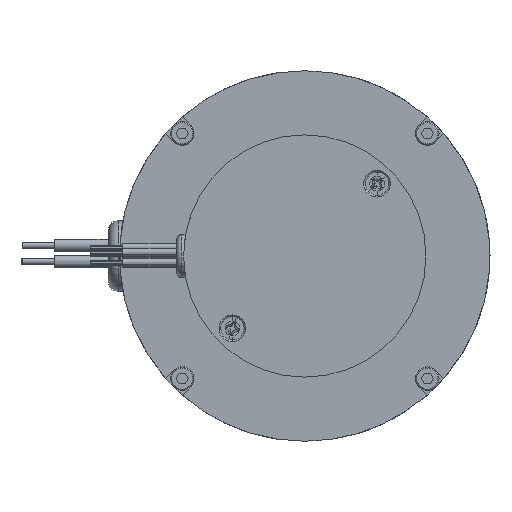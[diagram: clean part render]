
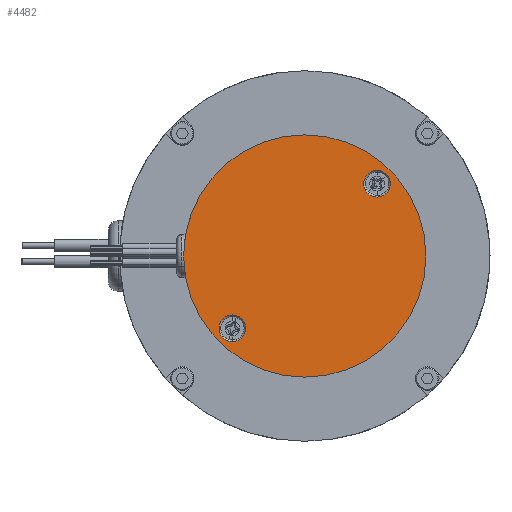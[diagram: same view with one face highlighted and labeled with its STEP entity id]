
A CAD part, left-side view. The second image highlights one B-rep face of the part: STEP entity #4482.
In plain terms, the highlighted planar face has unit normal (-1, 0, 0).
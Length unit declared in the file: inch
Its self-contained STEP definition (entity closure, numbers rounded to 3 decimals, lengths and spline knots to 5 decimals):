
#16 = DIRECTION ( 'NONE',  ( -1., 0., 0. ) ) ;
#117 = EDGE_LOOP ( 'NONE', ( #11324, #13840 ) ) ;
#684 = FACE_BOUND ( 'NONE', #5483, .T. ) ;
#752 = AXIS2_PLACEMENT_3D ( 'NONE', #10796, #6453, #7347 ) ;
#1110 = DIRECTION ( 'NONE',  ( 0., 0., 1. ) ) ;
#1230 = DIRECTION ( 'NONE',  ( 1., 0., 0. ) ) ;
#1597 = AXIS2_PLACEMENT_3D ( 'NONE', #13804, #16, #9720 ) ;
#1631 = AXIS2_PLACEMENT_3D ( 'NONE', #2332, #1230, #4690 ) ;
#2140 = CARTESIAN_POINT ( 'NONE',  ( -3.72874, 3.38834, 5.77322 ) ) ;
#2332 = CARTESIAN_POINT ( 'NONE',  ( -3.72874, 4.06009, 5.10147 ) ) ;
#2530 = EDGE_CURVE ( 'NONE', #9944, #13848, #14229, .T. ) ;
#2608 = DIRECTION ( 'NONE',  ( 0., 0., 1. ) ) ;
#2821 = VERTEX_POINT ( 'NONE', #14860 ) ;
#2999 = EDGE_CURVE ( 'NONE', #2821, #13228, #3252, .T. ) ;
#3252 = CIRCLE ( 'NONE', #14055, 0.12402 ) ;
#3500 = CARTESIAN_POINT ( 'NONE',  ( -3.72874, 3.38834, 5.89724 ) ) ;
#3845 = CIRCLE ( 'NONE', #14879, 0.12402 ) ;
#4482 = ADVANCED_FACE ( 'NONE', ( #14899, #684, #14195 ), #6857, .F. ) ;
#4690 = DIRECTION ( 'NONE',  ( 0., 0., -1. ) ) ;
#5278 = VERTEX_POINT ( 'NONE', #11889 ) ;
#5483 = EDGE_LOOP ( 'NONE', ( #7687, #11428 ) ) ;
#5600 = AXIS2_PLACEMENT_3D ( 'NONE', #5723, #12370, #11317 ) ;
#5720 = CARTESIAN_POINT ( 'NONE',  ( -3.72874, 4.73184, 4.42972 ) ) ;
#5723 = CARTESIAN_POINT ( 'NONE',  ( -3.72874, 4.06009, 5.10147 ) ) ;
#6453 = DIRECTION ( 'NONE',  ( 1., 0., 0. ) ) ;
#6582 = DIRECTION ( 'NONE',  ( 0., 0., 1. ) ) ;
#6857 = PLANE ( 'NONE',  #5600 ) ;
#7030 = VERTEX_POINT ( 'NONE', #8577 ) ;
#7320 = ORIENTED_EDGE ( 'NONE', *, *, #14835, .F. ) ;
#7347 = DIRECTION ( 'NONE',  ( 0., 0., -1. ) ) ;
#7687 = ORIENTED_EDGE ( 'NONE', *, *, #8504, .F. ) ;
#8245 = CARTESIAN_POINT ( 'NONE',  ( -3.72874, 3.38834, 5.77322 ) ) ;
#8348 = CARTESIAN_POINT ( 'NONE',  ( -3.72874, 4.73184, 4.3057 ) ) ;
#8402 = DIRECTION ( 'NONE',  ( -1., 0., 0. ) ) ;
#8504 = EDGE_CURVE ( 'NONE', #13228, #2821, #3845, .T. ) ;
#8577 = CARTESIAN_POINT ( 'NONE',  ( -3.72874, 4.06009, 3.97647 ) ) ;
#9720 = DIRECTION ( 'NONE',  ( 0., 0., 1. ) ) ;
#9944 = VERTEX_POINT ( 'NONE', #12664 ) ;
#10039 = DIRECTION ( 'NONE',  ( -1., 0., 0. ) ) ;
#10180 = CIRCLE ( 'NONE', #752, 1.125 ) ;
#10630 = CIRCLE ( 'NONE', #11872, 0.12402 ) ;
#10796 = CARTESIAN_POINT ( 'NONE',  ( -3.72874, 4.06009, 5.10147 ) ) ;
#10865 = CIRCLE ( 'NONE', #1631, 1.125 ) ;
#11317 = DIRECTION ( 'NONE',  ( 0., 0., -1. ) ) ;
#11324 = ORIENTED_EDGE ( 'NONE', *, *, #11664, .F. ) ;
#11428 = ORIENTED_EDGE ( 'NONE', *, *, #2999, .F. ) ;
#11664 = EDGE_CURVE ( 'NONE', #7030, #5278, #10180, .T. ) ;
#11872 = AXIS2_PLACEMENT_3D ( 'NONE', #5720, #12576, #1110 ) ;
#11889 = CARTESIAN_POINT ( 'NONE',  ( -3.72874, 4.06009, 6.22647 ) ) ;
#12370 = DIRECTION ( 'NONE',  ( 1., 0., 0. ) ) ;
#12576 = DIRECTION ( 'NONE',  ( -1., 0., 0. ) ) ;
#12618 = ORIENTED_EDGE ( 'NONE', *, *, #2530, .F. ) ;
#12620 = EDGE_CURVE ( 'NONE', #5278, #7030, #10865, .T. ) ;
#12664 = CARTESIAN_POINT ( 'NONE',  ( -3.72874, 4.73184, 4.55373 ) ) ;
#13228 = VERTEX_POINT ( 'NONE', #3500 ) ;
#13329 = EDGE_LOOP ( 'NONE', ( #12618, #7320 ) ) ;
#13804 = CARTESIAN_POINT ( 'NONE',  ( -3.72874, 4.73184, 4.42972 ) ) ;
#13840 = ORIENTED_EDGE ( 'NONE', *, *, #12620, .F. ) ;
#13848 = VERTEX_POINT ( 'NONE', #8348 ) ;
#14055 = AXIS2_PLACEMENT_3D ( 'NONE', #2140, #10039, #6582 ) ;
#14195 = FACE_OUTER_BOUND ( 'NONE', #117, .T. ) ;
#14229 = CIRCLE ( 'NONE', #1597, 0.12402 ) ;
#14835 = EDGE_CURVE ( 'NONE', #13848, #9944, #10630, .T. ) ;
#14860 = CARTESIAN_POINT ( 'NONE',  ( -3.72874, 3.38834, 5.6492 ) ) ;
#14879 = AXIS2_PLACEMENT_3D ( 'NONE', #8245, #8402, #2608 ) ;
#14899 = FACE_BOUND ( 'NONE', #13329, .T. ) ;
